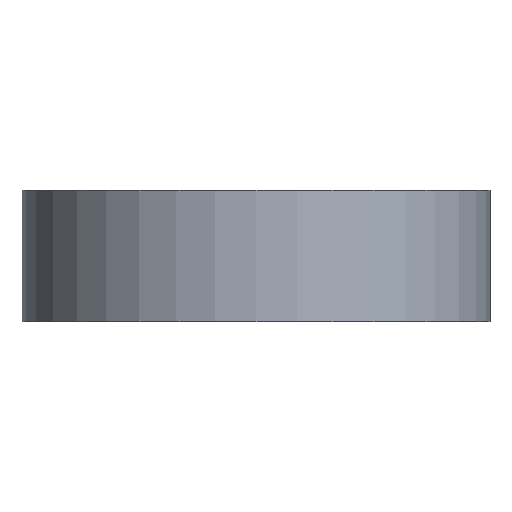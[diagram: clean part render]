
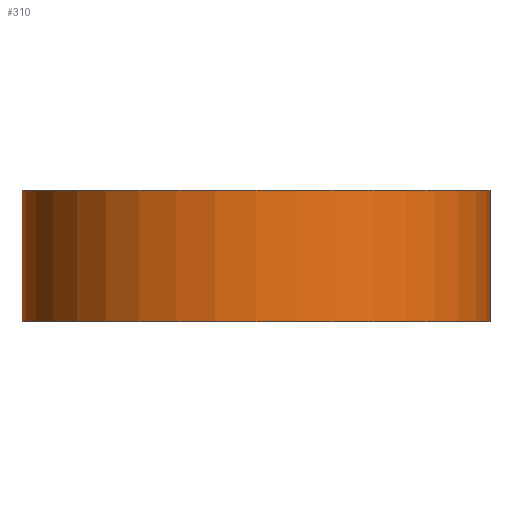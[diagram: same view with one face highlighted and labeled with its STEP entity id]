
A CAD part, front view. The second image highlights one B-rep face of the part: STEP entity #310.
In plain terms, the highlighted cylindrical face has radius 28.5 mm (diameter 57 mm), a full revolution.
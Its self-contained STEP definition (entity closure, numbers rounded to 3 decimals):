
#43=FACE_OUTER_BOUND('',#63,.T.);
#63=EDGE_LOOP('',(#279,#280,#281,#282));
#75=CIRCLE('',#346,28.5);
#79=CIRCLE('',#354,28.5);
#110=LINE('',#1884,#119);
#119=VECTOR('',#422,28.5);
#145=VERTEX_POINT('',#1869);
#149=VERTEX_POINT('',#1883);
#187=EDGE_CURVE('',#145,#145,#75,.T.);
#193=EDGE_CURVE('',#145,#149,#110,.T.);
#194=EDGE_CURVE('',#149,#149,#79,.T.);
#279=ORIENTED_EDGE('',*,*,#187,.F.);
#280=ORIENTED_EDGE('',*,*,#193,.T.);
#281=ORIENTED_EDGE('',*,*,#194,.T.);
#282=ORIENTED_EDGE('',*,*,#193,.F.);
#293=CYLINDRICAL_SURFACE('',#353,28.5);
#310=ADVANCED_FACE('',(#43),#293,.T.);
#346=AXIS2_PLACEMENT_3D('',#1870,#404,#405);
#353=AXIS2_PLACEMENT_3D('',#1882,#420,#421);
#354=AXIS2_PLACEMENT_3D('',#1885,#423,#424);
#404=DIRECTION('center_axis',(0.,0.,1.));
#405=DIRECTION('ref_axis',(1.,0.,0.));
#420=DIRECTION('center_axis',(0.,0.,1.));
#421=DIRECTION('ref_axis',(1.,0.,0.));
#422=DIRECTION('',(0.,0.,-1.));
#423=DIRECTION('center_axis',(0.,0.,1.));
#424=DIRECTION('ref_axis',(1.,0.,0.));
#1869=CARTESIAN_POINT('',(-28.5,0.,16.));
#1870=CARTESIAN_POINT('Origin',(0.,0.,16.));
#1882=CARTESIAN_POINT('Origin',(0.,0.,0.));
#1883=CARTESIAN_POINT('',(-28.5,0.,0.));
#1884=CARTESIAN_POINT('',(-28.5,0.,0.));
#1885=CARTESIAN_POINT('Origin',(0.,0.,0.));
